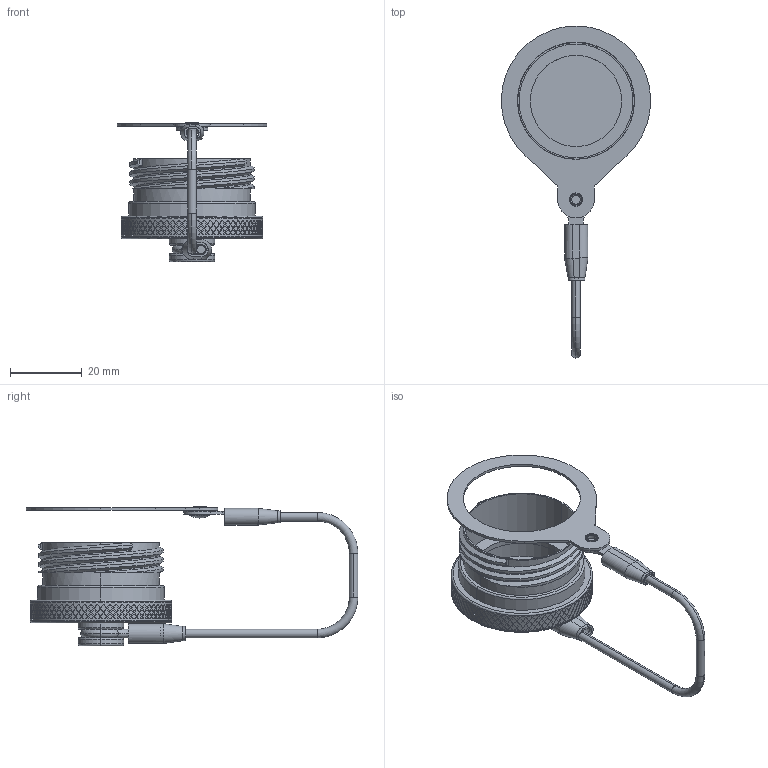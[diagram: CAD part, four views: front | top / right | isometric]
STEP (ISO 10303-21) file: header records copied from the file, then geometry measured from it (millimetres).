
FILE_DESCRIPTION (( 'STEP AP214' ), '1' );
FILE_NAME ('Q38DC-PRX-21-R0.STEP', '2026-04-22T18:41:37', ( '' ), ( '' ), 'SwSTEP 2.0', 'SolidWorks 2024', '' );
FILE_SCHEMA (( 'AUTOMOTIVE_DESIGN' ));
Length unit declared in the file: inch
Products named in the file (11): Q38-XX28-X_Q38-2128; SW-347; Lanyard Assembly Q38_Q38DC-PRX-21 (Assembled); SW-348; HEAT SHRINK_HS-250X625_SW-348; SW-349_SW-349; HEAT SHRINK_HS-125-625S; Q38DC-PRX-21-R0; SW-XRXX_SW-SR21; Q38-XX29-P_21P; LN-06-07-13_Q38DC-PRX-21 (Assembled)
Assembly tree (10 placements, depth 3):
  Q38DC-PRX-21-R0
    Q38-XX28-X_Q38-2128
    Lanyard Assembly Q38_Q38DC-PRX-21 (Assembled)
      LN-06-07-13_Q38DC-PRX-21 (Assembled)
      SW-348
      HEAT SHRINK_HS-250X625_SW-348
      SW-347
      HEAT SHRINK_HS-125-625S
      SW-349_SW-349
      SW-XRXX_SW-SR21
    Q38-XX29-P_21P
Bounding box: 41.6 x 92.34 x 38.81 mm (x, y, z)
Volume: 11066.8 mm3; surface area: 13200 mm2
Topology: 9 solids, 9 shells, 1980 faces, 4751 edges, 3140 vertices
Faces by surface type: plane 1487, cylinder 442, torus 32, bspline 17, sphere 2
Entity records: 59236 total; most frequent: CARTESIAN_POINT 19882, ORIENTED_EDGE 9502, DIRECTION 6621, EDGE_CURVE 4751, VERTEX_POINT 3140, AXIS2_PLACEMENT_3D 2486, EDGE_LOOP 2345, FACE_OUTER_BOUND 1980
